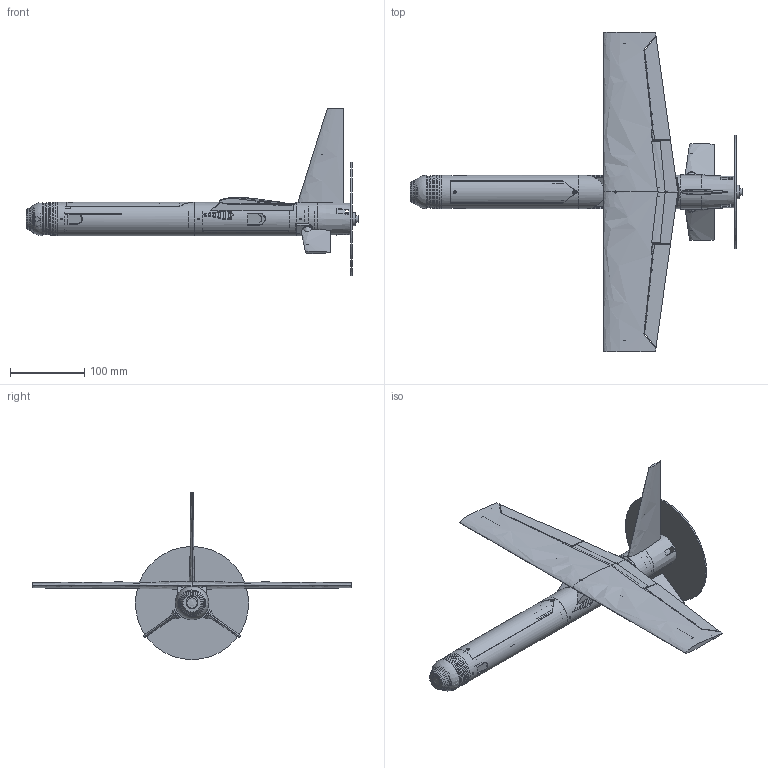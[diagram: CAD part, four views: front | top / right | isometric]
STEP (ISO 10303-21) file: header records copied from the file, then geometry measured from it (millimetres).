
FILE_DESCRIPTION(('Open CASCADE Model'),'2;1');
FILE_NAME('Open CASCADE Shape Model','2026-10-04T08:08:22',('Author'),( 'Open CASCADE'),'Open CASCADE STEP processor 7.9','Open CASCADE 7.9' ,'Unknown');
FILE_SCHEMA(('AUTOMOTIVE_DESIGN { 1 0 10303 214 1 1 1 1 }'));
Length unit declared in the file: millimetre
Products named in the file (67): C4; N0M-nose-micro-camera; N0M-vtx-shelf; F1-fuselage-front; F2-fuselage-main; F3-tail-module; HF-front-hatch; HG-gps-carrier; WR-wing-right; WL-wing-left; AR-aileron-right; AL-aileron-left; SR-stabilator-right; SL-stabilator-left; FN-fin; M1-motor-plate; ENV-motor; ENV-hatch_screw_HF_front; ENV-hatch_screw_HF_rear; ENV-prop_disc; ENV-prop_hub_nut; ENV-battery; ENV-camera_micro19; ENV-cam_screws; ENV-MD_camera_micro19; ENV-MD_cam_screws; ENV-MD_vtx; ENV-MD_dome; ENV-PD_pi_board; ENV-PD_pi_sensor_lens; ENV-PD_pi_connector; ENV-PD_pi_ribbon; ENV-PD_pi_screws; ENV-PD_dome; ENV-O_o4_camera; ENV-O_o4_screws; ENV-O_o4_module; ENV-vtx; ENV-gnss; ENV-flight_controller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
Assembly tree (66 placements, depth 2):
  C4
    N0M-nose-micro-camera
    N0M-vtx-shelf
    F1-fuselage-front
    F2-fuselage-main
    F3-tail-module
    HF-front-hatch
    HG-gps-carrier
    WR-wing-right
    WL-wing-left
    AR-aileron-right
    AL-aileron-left
    SR-stabilator-right
    SL-stabilator-left
    FN-fin
    M1-motor-plate
    ENV-motor
    ENV-hatch_screw_HF_front
    ENV-hatch_screw_HF_rear
    ENV-prop_disc
    ENV-prop_hub_nut
    ENV-battery
    ENV-camera_micro19
    ENV-cam_screws
    ENV-MD_camera_micro19
    ENV-MD_cam_screws
    ENV-MD_vtx
    ENV-MD_dome
    ENV-PD_pi_board
    ENV-PD_pi_sensor_lens
    ENV-PD_pi_connector
    ENV-PD_pi_ribbon
    ENV-PD_pi_screws
    ENV-PD_dome
    ENV-O_o4_camera
    ENV-O_o4_screws
    ENV-O_o4_module
    ENV-vtx
    ENV-gnss
    ENV-flight_controller
    ENV-ail_servo_arm
    ENV-ail_rod_R
    ENV-ail_link_R
    ENV-ail_rod_L
    ENV-ail_link_L
    ENV-ail_spine_R
    ENV-ail_spine_L
    ENV-receiver
    ENV-ubec
    ENV-ant_elrs
    ENV-ant_vtx
    ENV-MD_ant_vtx
    ENV-O_ant_video
    ENV-aileron_servo
    ENV-tail_servo_L
    ENV-tail_servo_R
    ENV-esc
    ENV-tail_servo_arm_R
    ENV-tail_link_R
    ENV-tail_servo_arm_L
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Bounding box: 447 x 430 x 225.3 mm (x, y, z)
Volume: 645170 mm3; surface area: 398908.9 mm2
Topology: 82 solids, 85 shells, 2144 faces, 5637 edges, 3662 vertices
Faces by surface type: plane 1322, cylinder 377, bspline 289, cone 134, torus 14, sphere 8
Full cylindrical faces by diameter (mm): 0.8 x12, 0.85 x4, 1.5 x2, 1.6 x31, 1.7 x2, 2 x24, 2.2 x14, 2.3 x2, 2.38 x8, 2.48 x2, 2.5 x2, 2.6 x8, 3 x5, 3.05 x2, 3.175 x2, 3.2 x4, 3.375 x2, 3.8 x6, 3.9 x3, 3.94 x3, 5 x8, 5.2 x2, 5.6 x3, 6 x7, 6.95 x1, 9.2 x1, 12 x1, 13 x2, 14 x2, 17 x2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
Entity records: 198993 total; most frequent: CARTESIAN_POINT 93337, DIRECTION 16608, ORIENTED_EDGE 11236, PCURVE 11234, DEFINITIONAL_REPRESENTATION 11234, LINE 8403, VECTOR 8403, EDGE_CURVE 5617
